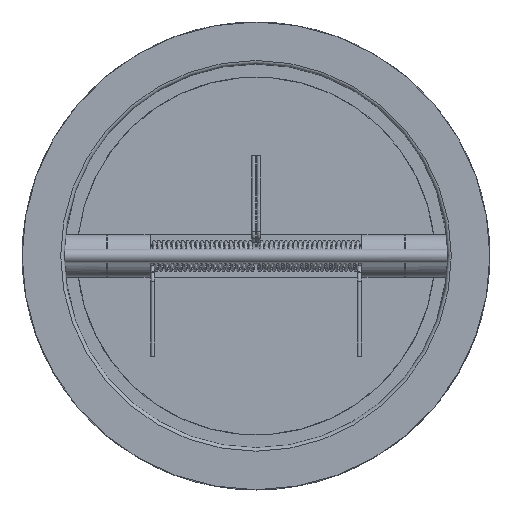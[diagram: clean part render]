
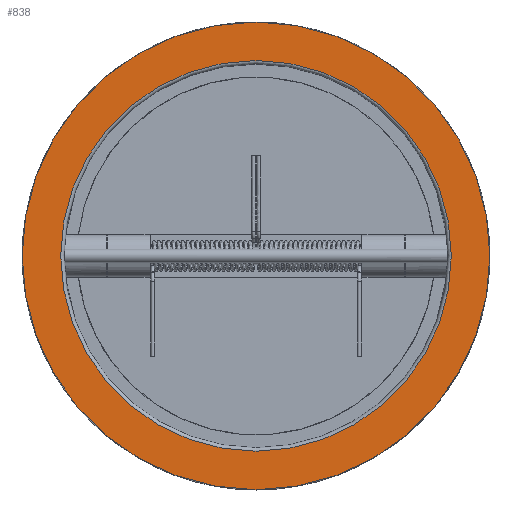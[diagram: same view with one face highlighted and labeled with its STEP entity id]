
A CAD part, top view. The second image highlights one B-rep face of the part: STEP entity #838.
In plain terms, the highlighted planar face has unit normal (0, 0, 1).
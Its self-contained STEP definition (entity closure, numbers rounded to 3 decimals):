
#838 = ADVANCED_FACE( '', ( #1770, #1771 ), #1772, .F. );
#1770 = FACE_BOUND( '', #14502, .T. );
#1771 = FACE_OUTER_BOUND( '', #14503, .T. );
#1772 = PLANE( '', #14504 );
#14502 = EDGE_LOOP( '', ( #16890 ) );
#14503 = EDGE_LOOP( '', ( #16891 ) );
#14504 = AXIS2_PLACEMENT_3D( '', #16892, #16893, #16894 );
#16890 = ORIENTED_EDGE( '', *, *, #17007, .T. );
#16891 = ORIENTED_EDGE( '', *, *, #17120, .F. );
#16892 = CARTESIAN_POINT( '', ( 0., 0., 44.5 ) );
#16893 = DIRECTION( '', ( 0., 0., -1. ) );
#16894 = DIRECTION( '', ( -1., 0., 0. ) );
#17007 = EDGE_CURVE( '', #17931, #17931, #17932, .T. );
#17120 = EDGE_CURVE( '', #18132, #18132, #18133, .T. );
#17931 = VERTEX_POINT( '', #19635 );
#17932 = CIRCLE( '', #19636, 114. );
#18132 = VERTEX_POINT( '', #20691 );
#18133 = CIRCLE( '', #20692, 136.5 );
#19635 = CARTESIAN_POINT( '', ( -114., 0., 44.5 ) );
#19636 = AXIS2_PLACEMENT_3D( '', #27559, #27560, #27561 );
#20691 = CARTESIAN_POINT( '', ( 136.5, 0., 44.5 ) );
#20692 = AXIS2_PLACEMENT_3D( '', #27614, #27615, #27616 );
#27559 = CARTESIAN_POINT( '', ( 0., 0., 44.5 ) );
#27560 = DIRECTION( '', ( 0., 0., -1. ) );
#27561 = DIRECTION( '', ( -1., 0., 0. ) );
#27614 = CARTESIAN_POINT( '', ( 0., 0., 44.5 ) );
#27615 = DIRECTION( '', ( 0., 0., -1. ) );
#27616 = DIRECTION( '', ( 1., 0., 0. ) );
